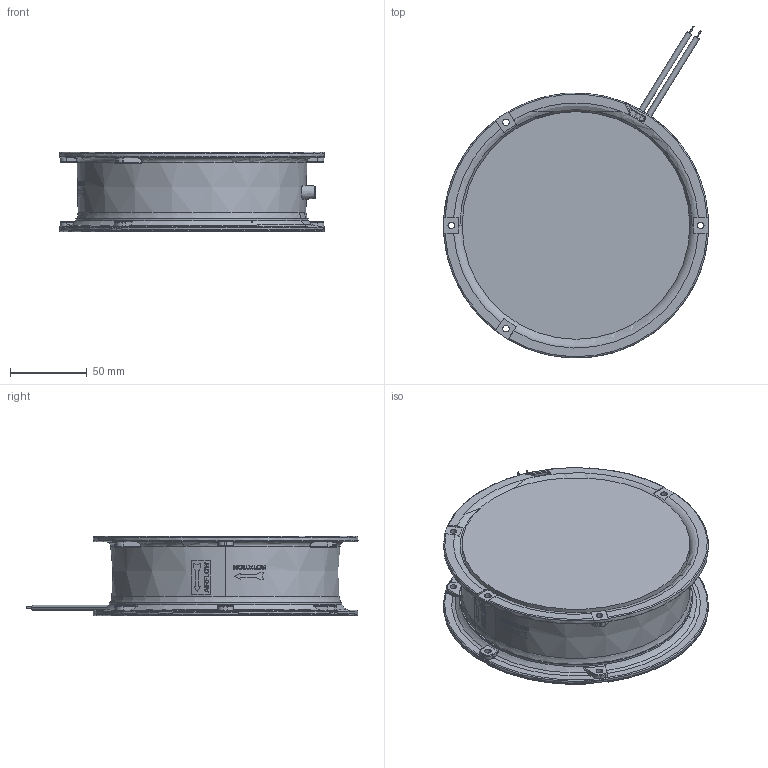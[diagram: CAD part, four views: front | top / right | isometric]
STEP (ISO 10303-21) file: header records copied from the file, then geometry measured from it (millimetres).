
FILE_DESCRIPTION((''),'2;1');
FILE_NAME('17251_X2_6846_X0_-A1_X2_FF08__9','2026-07-22T09:05:38',('pc'),(''),'CREO PARAMETRIC BY PTC INC, 2018050','CREO PARAMETRIC BY PTC INC, 2018050','');
FILE_SCHEMA(('CONFIG_CONTROL_DESIGN','GEOMETRIC_VALIDATION_PROPERTIES_MIM'));
Length unit declared in the file: millimetre
Products named in the file (1): 17251_X2_6846_X0_-A1_X2_FF08__9
Bounding box: 172.12 x 215.65 x 51.6 mm (x, y, z)
Volume: 938129.5 mm3; surface area: 88496.6 mm2
Topology: 1 solids, 1 shells, 632 faces, 1782 edges, 1186 vertices
Faces by surface type: plane 253, cylinder 188, torus 83, bspline 44, cone 36, extrusion 20, sphere 6, revolution 2
Entity records: 24016 total; most frequent: CARTESIAN_POINT 8434, ORIENTED_EDGE 3560, DIRECTION 2772, EDGE_CURVE 1780, VERTEX_POINT 1186, AXIS2_PLACEMENT_3D 1089, B_SPLINE_CURVE_WITH_KNOTS 707, EDGE_LOOP 684
